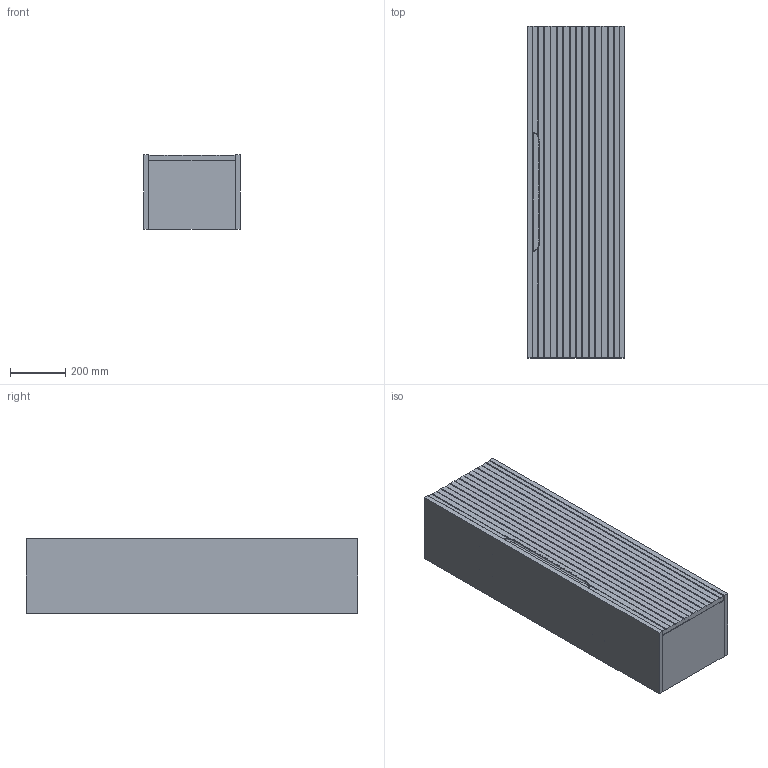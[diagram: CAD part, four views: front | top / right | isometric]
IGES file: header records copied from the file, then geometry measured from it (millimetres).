
Global section: file name: 3D Dosyası,; native system: Autodesk Inventor 2024; preprocessor: unknown; author: pc11; date: 20250429.181447; units: millimetre
Bounding box: 350 x 1200 x 270 mm (x, y, z)
Volume: 26187915.1 mm3; surface area: 3877372 mm2
Topology: 9 solids, 9 shells, 243 faces, 629 edges, 462 vertices
Faces by surface type: bspline 243
